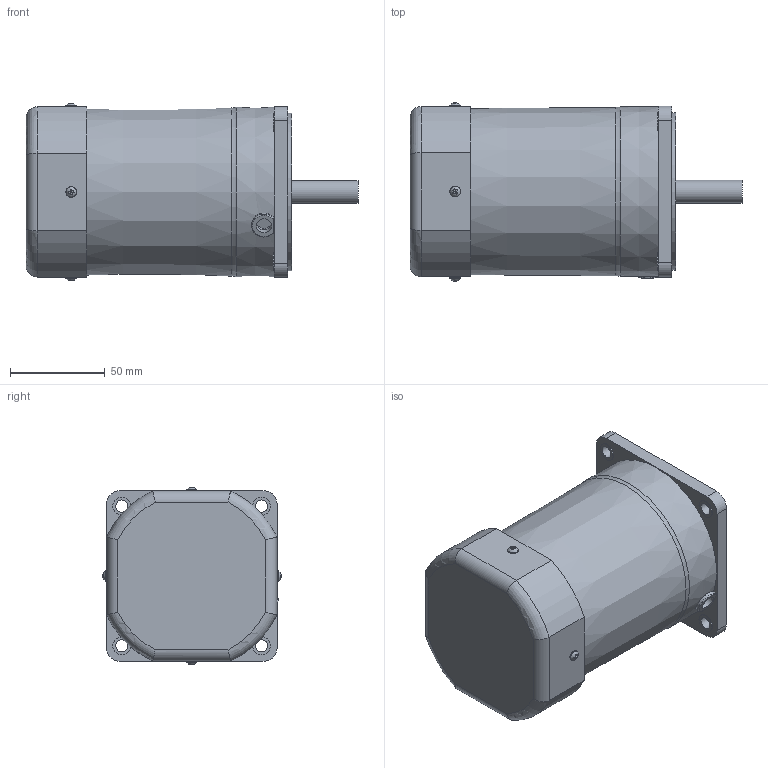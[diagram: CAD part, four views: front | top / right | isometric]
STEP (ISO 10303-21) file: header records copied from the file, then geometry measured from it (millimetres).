
FILE_DESCRIPTION((''),'2;1');
FILE_NAME('D:\STP파일\90W MOTOR\S9I90S.stp','2013-05-20T18:15:52',('leebh'),(''),'Autodesk Inventor 2011','Autodesk Inventor 2011','');
FILE_SCHEMA(('AUTOMOTIVE_DESIGN { 1 0 10303 214 1 1 1 1 }'));
Length unit declared in the file: millimetre
Products named in the file (1): 부품1
Bounding box: 174.8 x 93.94 x 93.51 mm (x, y, z)
Volume: 884302.9 mm3; surface area: 62089 mm2
Topology: 1 solids, 3 shells, 180 faces, 430 edges, 278 vertices
Faces by surface type: plane 107, cylinder 49, torus 14, cone 6, bspline 4
Full cylindrical faces by diameter (mm): 3 x4, 3.5 x4, 5.6 x4, 6.5 x4, 8 x1, 9.5 x4, 10 x1, 12 x1, 40 x1, 83 x1
Entity records: 5459 total; most frequent: CARTESIAN_POINT 1413, DIRECTION 784, ORIENTED_EDGE 754, EDGE_CURVE 377, AXIS2_PLACEMENT_3D 291, VERTEX_POINT 270, EDGE_LOOP 259, VECTOR 202
